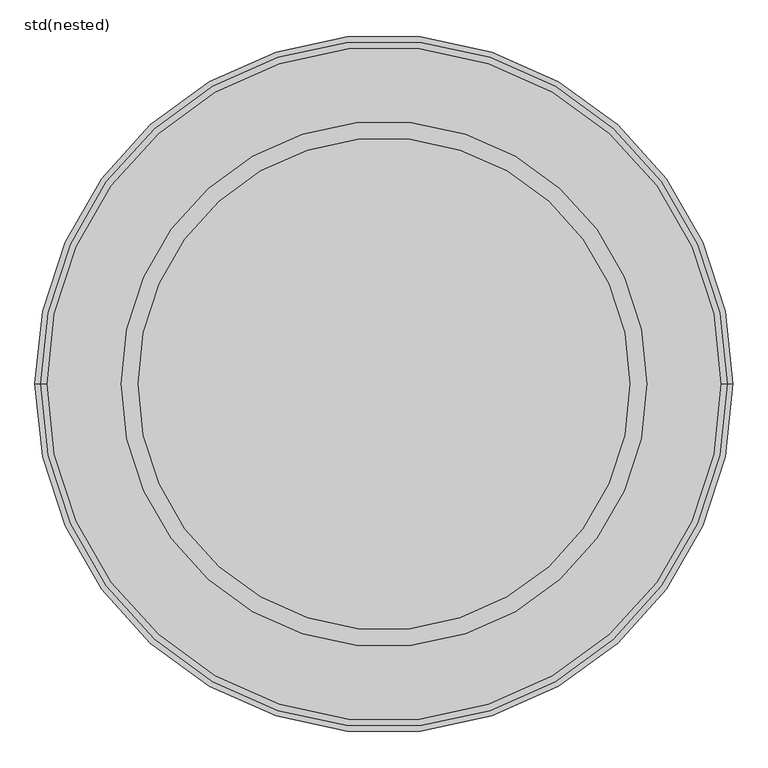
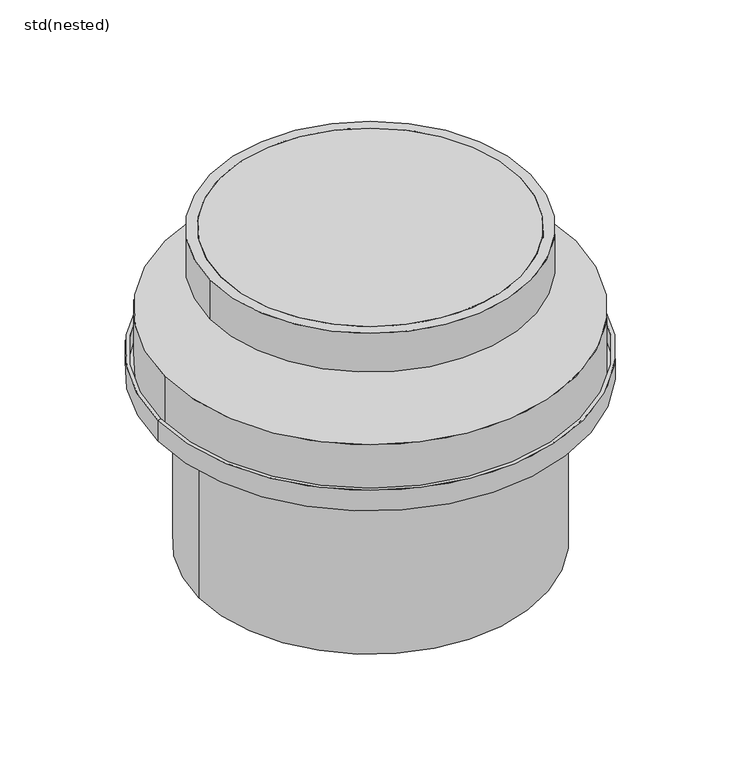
"""IFC4 building model written with IfcOpenShell, lengths in millimetres: unitary equipment geometry, ZZZ_do not use_ME_ST_WPB_top sections_plastic_ACO : std(nested)."""

from ifc_helpers import new_model, si_unit, point, frame, origin, origin_2d, place, context, project, spatial, polyline, circle_curve, trimmed, segment, composite_curve, outline, extrude, source, transform, mapped, element, save
from ifc_brep_helpers import plane_surface, cylinder_surface, revolved_surface, advanced_brep


def std_nested_59d10d0a(model_context):
    return source(origin(), model_context, "Body", "SolidModel", [
        advanced_brep(
        [(-510.0, 0.0, -315.0), (510.0, 0.0, -315.0), (518.0, 0.0, -315.0), (-518.0, 0.0, -315.0), (-510.0, 0.0, -360.0), (510.0, 0.0, -360.0), (-410.0, 0.0, -360.0), (410.0, 0.0, -360.0), (-410.0, 0.0, -807.0), (410.0, 0.0, -807.0), (-418.0, 0.0, -807.0), (418.0, 0.0, -807.0), (-418.0, 0.0, -368.0), (418.0, 0.0, -368.0), (-518.0, 0.0, -368.0), (518.0, 0.0, -368.0)],
        [
            (0, 1, circle_curve(frame((0.0, 0.0, -315.0), z_axis=(0.0, 0.0, -1.0), x_axis=(1.0, 0.0, 0.0)), 510.0)),
            (1, 2),
            (2, 3, circle_curve(frame((0.0, 0.0, -315.0), z_axis=(0.0, 0.0, 1.0), x_axis=(1.0, 0.0, 0.0)), 518.0)),
            (3, 0),
            (1, 0, circle_curve(frame((0.0, 0.0, -315.0), z_axis=(0.0, 0.0, -1.0), x_axis=(1.0, 0.0, 0.0)), 510.0)),
            (3, 2, circle_curve(frame((0.0, 0.0, -315.0), z_axis=(0.0, 0.0, 1.0), x_axis=(1.0, 0.0, 0.0)), 518.0)),
            (4, 5, circle_curve(frame((0.0, 0.0, -360.0), z_axis=(0.0, 0.0, -1.0), x_axis=(1.0, 0.0, 0.0)), 510.0)),
            (5, 1),
            (0, 4),
            (5, 4, circle_curve(frame((0.0, 0.0, -360.0), z_axis=(0.0, 0.0, -1.0), x_axis=(1.0, 0.0, 0.0)), 510.0)),
            (6, 7, circle_curve(frame((0.0, 0.0, -360.0), z_axis=(0.0, 0.0, -1.0), x_axis=(1.0, 0.0, 0.0)), 410.0)),
            (7, 5),
            (4, 6),
            (7, 6, circle_curve(frame((0.0, 0.0, -360.0), z_axis=(0.0, 0.0, -1.0), x_axis=(1.0, 0.0, 0.0)), 410.0)),
            (8, 9, circle_curve(frame((0.0, 0.0, -807.0), z_axis=(0.0, 0.0, -1.0), x_axis=(1.0, 0.0, 0.0)), 410.0)),
            (9, 7),
            (6, 8),
            (9, 8, circle_curve(frame((0.0, 0.0, -807.0), z_axis=(0.0, 0.0, -1.0), x_axis=(1.0, 0.0, 0.0)), 410.0)),
            (10, 11, circle_curve(frame((0.0, 0.0, -807.0), z_axis=(0.0, 0.0, -1.0), x_axis=(1.0, 0.0, 0.0)), 418.0)),
            (11, 9),
            (8, 10),
            (11, 10, circle_curve(frame((0.0, 0.0, -807.0), z_axis=(0.0, 0.0, -1.0), x_axis=(1.0, 0.0, 0.0)), 418.0)),
            (12, 13, circle_curve(frame((0.0, 0.0, -368.0), z_axis=(0.0, 0.0, -1.0), x_axis=(1.0, 0.0, 0.0)), 418.0)),
            (13, 11),
            (10, 12),
            (13, 12, circle_curve(frame((0.0, 0.0, -368.0), z_axis=(0.0, 0.0, -1.0), x_axis=(1.0, 0.0, 0.0)), 418.0)),
            (14, 15, circle_curve(frame((0.0, 0.0, -368.0), z_axis=(0.0, 0.0, -1.0), x_axis=(1.0, 0.0, 0.0)), 518.0)),
            (15, 13),
            (12, 14),
            (15, 14, circle_curve(frame((0.0, 0.0, -368.0), z_axis=(0.0, 0.0, -1.0), x_axis=(1.0, 0.0, 0.0)), 518.0)),
            (2, 15),
            (14, 3),
        ],
        [
            plane_surface(frame((0.0, 0.0, -315.0), z_axis=(0.0, 0.0, 1.0), x_axis=(1.0, 0.0, 0.0))),
            revolved_surface(polyline([(510.0, 0.0, -315.0), (510.0, 0.0, -360.0)]), (0.0, 0.0, 240.0), (0.0, 0.0, 1.0)),
            plane_surface(frame((0.0, 0.0, -360.0), z_axis=(0.0, 0.0, 1.0), x_axis=(1.0, 0.0, 0.0))),
            revolved_surface(polyline([(410.0, 0.0, -360.0), (410.0, 0.0, -807.0)]), (0.0, 0.0, 240.0), (0.0, 0.0, 1.0)),
            plane_surface(frame((0.0, 0.0, -807.0), z_axis=(0.0, 0.0, -1.0), x_axis=(1.0, 0.0, 0.0))),
            cylinder_surface(frame((0.0, 0.0, 240.0), z_axis=(0.0, 0.0, 1.0), x_axis=(1.0, 0.0, 0.0)), 418.0),
            plane_surface(frame((0.0, 0.0, -368.0), z_axis=(0.0, 0.0, -1.0), x_axis=(1.0, 0.0, 0.0))),
            cylinder_surface(frame((0.0, 0.0, 240.0), z_axis=(0.0, 0.0, 1.0), x_axis=(1.0, 0.0, 0.0)), 518.0),
        ],
        [
            (0, [[1, 2, 3, 4]]),
            (0, [[5, -4, 6, -2]]),
            (1, [[7, 8, -1, 9]]),
            (1, [[10, -9, -5, -8]]),
            (2, [[11, 12, -7, 13]]),
            (2, [[14, -13, -10, -12]]),
            (3, [[15, 16, -11, 17]]),
            (3, [[18, -17, -14, -16]]),
            (4, [[19, 20, -15, 21]]),
            (4, [[22, -21, -18, -20]]),
            (5, [[23, 24, -19, 25]]),
            (5, [[26, -25, -22, -24]]),
            (6, [[27, 28, -23, 29]]),
            (6, [[30, -29, -26, -28]]),
            (7, [[-3, 31, -27, 32]]),
            (7, [[-6, -32, -30, -31]]),
        ],
    ),
        extrude(outline(composite_curve([segment(trimmed(circle_curve(origin_2d(), 500.0), [point((-500.0, 0.0))], [point((500.0, 0.0))], False, "CARTESIAN"), True, "CONTINUOUS"), segment(trimmed(circle_curve(origin_2d(), 500.0), [point((500.0, 0.0))], [point((-500.0, 0.0))], False, "CARTESIAN"), True, "CONTINUOUS")], self_intersect=False)), frame((0.0, 0.0, -360.0), z_axis=(0.0, 0.0, 1.0), x_axis=(1.0, 0.0, 0.0)), (0.0, 0.0, 1.0), 150.0),
        extrude(outline(composite_curve([segment(trimmed(circle_curve(origin_2d(), 365.0), [point((365.0, 0.0))], [point((-365.0, 0.0))], False, "CARTESIAN"), True, "CONTINUOUS"), segment(trimmed(circle_curve(origin_2d(), 365.0), [point((-365.0, 0.0))], [point((365.0, 0.0))], False, "CARTESIAN"), True, "CONTINUOUS")], self_intersect=False)), frame((0.0, 0.0, -100.0), z_axis=(0.0, 0.0, 1.0), x_axis=(1.0, 0.0, 0.0)), (0.0, 0.0, 1.0), 100.0),
        extrude(outline(composite_curve([segment(trimmed(circle_curve(origin_2d(), 390.0), [point((-390.0, 0.0))], [point((390.0, 0.0))], False, "CARTESIAN"), True, "CONTINUOUS"), segment(trimmed(circle_curve(origin_2d(), 390.0), [point((390.0, 0.0))], [point((-390.0, 0.0))], False, "CARTESIAN"), True, "CONTINUOUS")], self_intersect=False), holes=[composite_curve([segment(trimmed(circle_curve(origin_2d(), 365.0), [point((-365.0, 0.0))], [point((365.0, 0.0))], True, "CARTESIAN"), True, "CONTINUOUS"), segment(trimmed(circle_curve(origin_2d(), 365.0), [point((365.0, 0.0))], [point((-365.0, 0.0))], True, "CARTESIAN"), True, "CONTINUOUS")], self_intersect=False)]), frame((0.0, 0.0, -100.0), z_axis=(0.0, 0.0, 1.0), x_axis=(1.0, 0.0, 0.0)), (0.0, 0.0, 1.0), 100.0),
    ])


if __name__ == "__main__":
    model = new_model("IFC4")
    model_context = context("Model", 3, world=origin())
    ifc_project = project(units=[si_unit("LENGTHUNIT", "METRE", prefix="MILLI")], contexts=[model_context])
    site = spatial("IfcSite", under=ifc_project)
    building = spatial("IfcBuilding", under=site)
    placement = place(None, origin())
    std_nested_shape = std_nested_59d10d0a(model_context)
    element("IfcUnitaryEquipment", 1, ObjectType="ZZZ_do not use_ME_ST_WPB_top sections_plastic_ACO : std(nested)", at=placement, inside=building, context=model_context, shape_type="MappedRepresentation", body=[
        mapped(std_nested_shape, transform((0.0, 0.0, 0.0), x_axis=(1.0, 0.0, 0.0), y_axis=(0.0, 1.0, 0.0), z_axis=(0.0, 0.0, 1.0))),
    ])
    save(model, "model.ifc")
